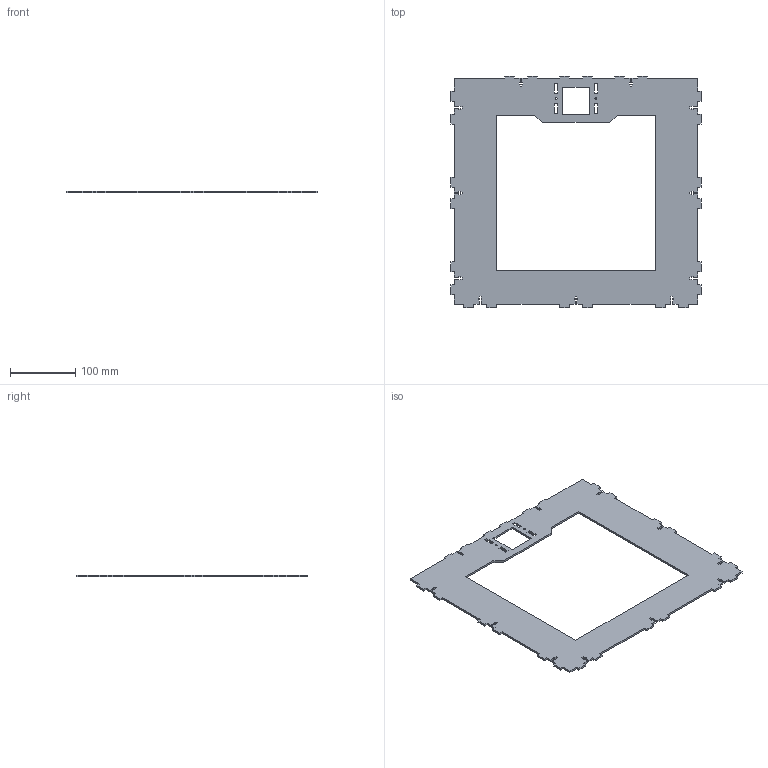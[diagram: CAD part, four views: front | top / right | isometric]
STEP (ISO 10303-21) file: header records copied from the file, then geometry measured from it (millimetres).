
FILE_DESCRIPTION(/* description */ (''),/* implementation_level */ '2;1');
FILE_NAME(/* name */ 'TAPAIN~2',/* time_stamp */ '2019-04-02T01:03:38-03:00',/* author */ (''),/* organization */ (''),/* preprocessor_version */ 'ST-DEVELOPER v16.5',/* originating_system */ '',/* authorisation */ '');
FILE_SCHEMA (('AUTOMOTIVE_DESIGN'));
Length unit declared in the file: millimetre
Products named in the file (1): Document
Bounding box: 382.2 x 353.18 x 3 mm (x, y, z)
Volume: 212719.7 mm3; surface area: 151643.4 mm2
Topology: 1 solids, 1 shells, 268 faces, 798 edges, 532 vertices
Faces by surface type: plane 264, bspline 4
Entity records: 7829 total; most frequent: CARTESIAN_POINT 2464, ORIENTED_EDGE 1596, EDGE_CURVE 798, B_SPLINE_CURVE_WITH_KNOTS 786, VERTEX_POINT 532, EDGE_LOOP 284, ADVANCED_FACE 268, FACE_OUTER_BOUND 268
